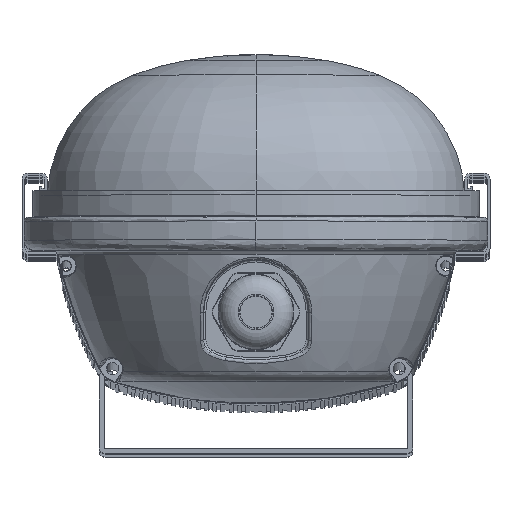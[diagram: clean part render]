
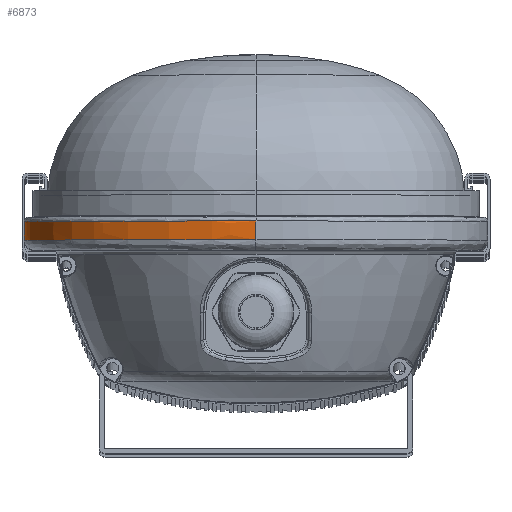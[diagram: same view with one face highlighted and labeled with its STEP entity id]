
A CAD part, top view. The second image highlights one B-rep face of the part: STEP entity #6873.
In plain terms, the highlighted face is a extrusion surface.
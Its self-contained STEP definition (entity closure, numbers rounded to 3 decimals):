
#6873=ADVANCED_FACE('',(#24749),#24751,.F.);
#24749=FACE_BOUND('',#24750,.T.);
#24750=EDGE_LOOP('',(#41402,#41403,#41404,#41405));
#24751=SURFACE_OF_LINEAR_EXTRUSION('',#24752,#24753);
#24752=B_SPLINE_CURVE_WITH_KNOTS('',3,
(#41406,#41407,#41408,#41409,#41410,#41411,#41412,#41413,#41414,#41415,#41416,#41417,
#41418,#41419,#41420,#41421,#41422,#41423,#41424,#41425,#41426,#41427),
.UNSPECIFIED.,.F.,.F.,
(4,1,1,1,1,1,1,1,1,1,1,1,1,1,1,1,1,1,1,4),
(0.,0.081,0.152,0.215,0.279,0.346,
0.429,0.496,0.547,0.57,0.603,
0.644,0.689,0.734,0.778,0.823,
0.868,0.912,0.957,1.),
.UNSPECIFIED.);
#24753=VECTOR('',#24754,7.228);
#24754=DIRECTION('',(0.,1.,0.));
#41402=ORIENTED_EDGE('',*,*,#45242,.T.);
#41403=ORIENTED_EDGE('',*,*,#45243,.T.);
#41404=ORIENTED_EDGE('',*,*,#45233,.F.);
#41405=ORIENTED_EDGE('',*,*,#45244,.T.);
#41406=CARTESIAN_POINT('',(0.,-7.228,48.023));
#41407=CARTESIAN_POINT('',(-1.777,-7.228,48.023));
#41408=CARTESIAN_POINT('',(-5.126,-7.228,47.863));
#41409=CARTESIAN_POINT('',(-9.865,-7.228,47.2));
#41410=CARTESIAN_POINT('',(-14.188,-7.228,46.234));
#41411=CARTESIAN_POINT('',(-18.336,-7.228,44.965));
#41412=CARTESIAN_POINT('',(-22.795,-7.228,43.206));
#41413=CARTESIAN_POINT('',(-27.111,-7.228,41.025));
#41414=CARTESIAN_POINT('',(-30.844,-7.228,38.717));
#41415=CARTESIAN_POINT('',(-33.408,-7.228,36.835));
#41416=CARTESIAN_POINT('',(-35.278,-7.228,35.226));
#41417=CARTESIAN_POINT('',(-36.907,-7.228,33.669));
#41418=CARTESIAN_POINT('',(-38.786,-7.228,31.591));
#41419=CARTESIAN_POINT('',(-40.663,-7.228,29.126));
#41420=CARTESIAN_POINT('',(-42.369,-7.228,26.42));
#41421=CARTESIAN_POINT('',(-43.829,-7.228,23.572));
#41422=CARTESIAN_POINT('',(-45.032,-7.228,20.605));
#41423=CARTESIAN_POINT('',(-45.959,-7.228,17.571));
#41424=CARTESIAN_POINT('',(-46.608,-7.228,14.513));
#41425=CARTESIAN_POINT('',(-46.984,-7.228,11.49));
#41426=CARTESIAN_POINT('',(-47.064,-7.228,9.502));
#41427=CARTESIAN_POINT('',(-47.064,-7.228,8.526));
#45233=EDGE_CURVE('',#48854,#48856,#48857,.T.);
#45242=EDGE_CURVE('',#48871,#48872,#48873,.T.);
#45243=EDGE_CURVE('',#48872,#48856,#48874,.T.);
#45244=EDGE_CURVE('',#48854,#48871,#48875,.F.);
#48854=VERTEX_POINT('',#63277);
#48856=VERTEX_POINT('',#63281);
#48857=LINE('',#63282,#63283);
#48871=VERTEX_POINT('',#64411);
#48872=VERTEX_POINT('',#64412);
#48873=LINE('',#64413,#64414);
#48874=B_SPLINE_CURVE_WITH_KNOTS('',3,
(#64416,#64417,#64418,#64419,#64420,#64421,#64422,#64423,#64424,#64425,#64426,#64427,
#64428,#64429,#64430,#64431,#64432,#64433,#64434,#64435,#64436,#64437,#64438,#64439,
#64440,#64441,#64442,#64443),
.UNSPECIFIED.,.F.,.F.,
(4,1,1,1,1,1,1,1,1,1,1,1,1,1,1,1,1,1,1,1,1,1,1,1,1,4),
(0.,0.088,0.159,0.216,0.267,0.31,
0.349,0.382,0.411,0.433,0.457,
0.481,0.505,0.525,0.546,0.569,
0.597,0.635,0.678,0.725,0.769,
0.814,0.859,0.904,0.951,1.),
.UNSPECIFIED.);
#48875=B_SPLINE_CURVE_WITH_KNOTS('',3,
(#64444,#64445,#64446,#64447,#64448,#64449,#64450,#64451,#64452,#64453,#64454,#64455,
#64456,#64457,#64458,#64459,#64460,#64461,#64462,#64463,#64464,#64465,#64466,#64467,
#64468,#64469,#64470,#64471),
.UNSPECIFIED.,.F.,.F.,
(4,1,1,1,1,1,1,1,1,1,1,1,1,1,1,1,1,1,1,1,1,1,1,1,1,4),
(0.,0.088,0.159,0.216,0.267,0.31,
0.349,0.382,0.411,0.433,0.457,
0.481,0.505,0.525,0.546,0.569,
0.597,0.635,0.678,0.725,0.769,
0.814,0.859,0.904,0.951,1.),
.UNSPECIFIED.);
#63277=CARTESIAN_POINT('',(-47.064,-4.681,8.526));
#63281=CARTESIAN_POINT('',(-47.064,-0.849,8.526));
#63282=CARTESIAN_POINT('',(-47.064,-4.681,8.526));
#63283=VECTOR('',#63284,1.);
#63284=DIRECTION('',(0.,1.,0.));
#64411=CARTESIAN_POINT('',(0.,-4.681,48.023));
#64412=CARTESIAN_POINT('',(0.,-0.849,48.023));
#64413=CARTESIAN_POINT('',(0.,-4.681,48.023));
#64414=VECTOR('',#64415,1.);
#64415=DIRECTION('',(0.,1.,0.));
#64416=CARTESIAN_POINT('',(0.,-0.849,48.023));
#64417=CARTESIAN_POINT('',(-1.914,-0.849,48.023));
#64418=CARTESIAN_POINT('',(-5.426,-0.849,47.842));
#64419=CARTESIAN_POINT('',(-10.173,-0.849,47.139));
#64420=CARTESIAN_POINT('',(-14.079,-0.849,46.247));
#64421=CARTESIAN_POINT('',(-17.317,-0.849,45.282));
#64422=CARTESIAN_POINT('',(-20.131,-0.849,44.265));
#64423=CARTESIAN_POINT('',(-22.5,-0.849,43.272));
#64424=CARTESIAN_POINT('',(-24.529,-0.849,42.315));
#64425=CARTESIAN_POINT('',(-26.186,-0.849,41.458));
#64426=CARTESIAN_POINT('',(-27.642,-0.849,40.65));
#64427=CARTESIAN_POINT('',(-28.967,-0.849,39.868));
#64428=CARTESIAN_POINT('',(-30.3,-0.849,39.025));
#64429=CARTESIAN_POINT('',(-31.543,-0.849,38.184));
#64430=CARTESIAN_POINT('',(-32.726,-0.849,37.327));
#64431=CARTESIAN_POINT('',(-33.871,-0.849,36.434));
#64432=CARTESIAN_POINT('',(-35.128,-0.849,35.358));
#64433=CARTESIAN_POINT('',(-36.626,-0.849,33.944));
#64434=CARTESIAN_POINT('',(-38.371,-0.849,32.075));
#64435=CARTESIAN_POINT('',(-40.261,-0.849,29.696));
#64436=CARTESIAN_POINT('',(-42.026,-0.849,27.013));
#64437=CARTESIAN_POINT('',(-43.563,-0.849,24.141));
#64438=CARTESIAN_POINT('',(-44.815,-0.849,21.201));
#64439=CARTESIAN_POINT('',(-45.8,-0.849,18.169));
#64440=CARTESIAN_POINT('',(-46.518,-0.849,15.047));
#64441=CARTESIAN_POINT('',(-46.964,-0.849,11.816));
#64442=CARTESIAN_POINT('',(-47.064,-0.849,9.631));
#64443=CARTESIAN_POINT('',(-47.064,-0.849,8.526));
#64444=CARTESIAN_POINT('',(0.,-4.681,48.023));
#64445=CARTESIAN_POINT('',(-1.914,-4.681,48.023));
#64446=CARTESIAN_POINT('',(-5.426,-4.681,47.842));
#64447=CARTESIAN_POINT('',(-10.173,-4.681,47.139));
#64448=CARTESIAN_POINT('',(-14.079,-4.681,46.247));
#64449=CARTESIAN_POINT('',(-17.317,-4.681,45.282));
#64450=CARTESIAN_POINT('',(-20.131,-4.681,44.265));
#64451=CARTESIAN_POINT('',(-22.5,-4.681,43.272));
#64452=CARTESIAN_POINT('',(-24.529,-4.681,42.315));
#64453=CARTESIAN_POINT('',(-26.186,-4.681,41.458));
#64454=CARTESIAN_POINT('',(-27.642,-4.681,40.65));
#64455=CARTESIAN_POINT('',(-28.967,-4.681,39.868));
#64456=CARTESIAN_POINT('',(-30.3,-4.681,39.025));
#64457=CARTESIAN_POINT('',(-31.543,-4.681,38.184));
#64458=CARTESIAN_POINT('',(-32.726,-4.681,37.327));
#64459=CARTESIAN_POINT('',(-33.871,-4.681,36.434));
#64460=CARTESIAN_POINT('',(-35.128,-4.681,35.358));
#64461=CARTESIAN_POINT('',(-36.626,-4.681,33.944));
#64462=CARTESIAN_POINT('',(-38.371,-4.681,32.075));
#64463=CARTESIAN_POINT('',(-40.261,-4.681,29.696));
#64464=CARTESIAN_POINT('',(-42.026,-4.681,27.013));
#64465=CARTESIAN_POINT('',(-43.563,-4.681,24.141));
#64466=CARTESIAN_POINT('',(-44.815,-4.681,21.201));
#64467=CARTESIAN_POINT('',(-45.8,-4.681,18.169));
#64468=CARTESIAN_POINT('',(-46.518,-4.681,15.047));
#64469=CARTESIAN_POINT('',(-46.964,-4.681,11.816));
#64470=CARTESIAN_POINT('',(-47.064,-4.681,9.631));
#64471=CARTESIAN_POINT('',(-47.064,-4.681,8.526));
